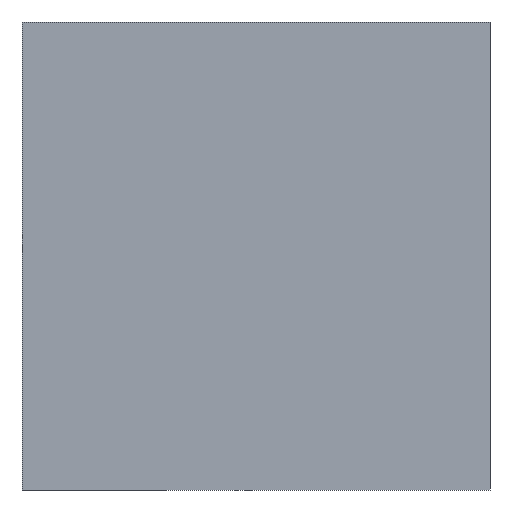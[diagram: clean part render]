
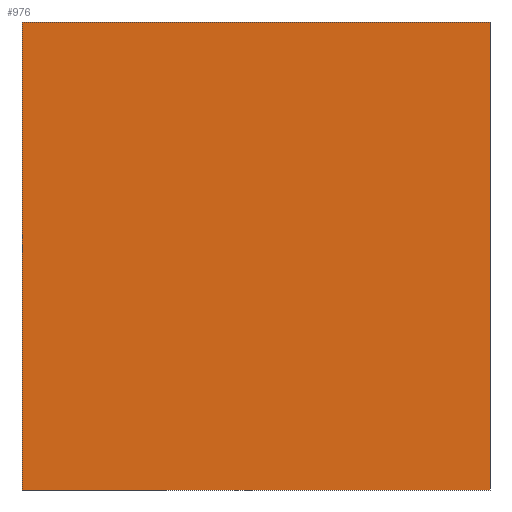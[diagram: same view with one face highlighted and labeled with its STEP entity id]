
A CAD part, left-side view. The second image highlights one B-rep face of the part: STEP entity #976.
In plain terms, the highlighted planar face has unit normal (-1, 0, 0).
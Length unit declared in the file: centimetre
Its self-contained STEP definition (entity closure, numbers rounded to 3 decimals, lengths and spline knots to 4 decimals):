
#36 = PLANE ( 'NONE',  #251 ) ;
#56 = EDGE_LOOP ( 'NONE', ( #864, #762, #145, #873 ) ) ;
#69 = CARTESIAN_POINT ( 'NONE',  ( 0., 1000., 0. ) ) ;
#78 = DIRECTION ( 'NONE',  ( 0., -1., 0. ) ) ;
#145 = ORIENTED_EDGE ( 'NONE', *, *, #247, .F. ) ;
#151 = LINE ( 'NONE', #379, #902 ) ;
#177 = VECTOR ( 'NONE', #458, 100. ) ;
#188 = CARTESIAN_POINT ( 'NONE',  ( 0., 1000., 1000. ) ) ;
#200 = EDGE_CURVE ( 'NONE', #995, #856, #841, .T. ) ;
#247 = EDGE_CURVE ( 'NONE', #995, #829, #739, .T. ) ;
#251 = AXIS2_PLACEMENT_3D ( 'NONE', #597, #993, #508 ) ;
#318 = EDGE_CURVE ( 'NONE', #856, #850, #786, .T. ) ;
#329 = FACE_OUTER_BOUND ( 'NONE', #56, .T. ) ;
#377 = CARTESIAN_POINT ( 'NONE',  ( 0., 0., 1000. ) ) ;
#379 = CARTESIAN_POINT ( 'NONE',  ( 0., 0., 1000. ) ) ;
#406 = CARTESIAN_POINT ( 'NONE',  ( 0., 0., 0. ) ) ;
#458 = DIRECTION ( 'NONE',  ( 0., -1., 0. ) ) ;
#502 = VECTOR ( 'NONE', #78, 100. ) ;
#508 = DIRECTION ( 'NONE',  ( 0., 0., -1. ) ) ;
#557 = CARTESIAN_POINT ( 'NONE',  ( 0., 1000., 1000. ) ) ;
#597 = CARTESIAN_POINT ( 'NONE',  ( 0., 1000., 1000. ) ) ;
#687 = DIRECTION ( 'NONE',  ( 0., 0., -1. ) ) ;
#728 = EDGE_CURVE ( 'NONE', #829, #850, #151, .T. ) ;
#739 = LINE ( 'NONE', #557, #177 ) ;
#762 = ORIENTED_EDGE ( 'NONE', *, *, #728, .F. ) ;
#786 = LINE ( 'NONE', #1013, #502 ) ;
#789 = VECTOR ( 'NONE', #908, 100. ) ;
#812 = CARTESIAN_POINT ( 'NONE',  ( 0., 1000., 1000. ) ) ;
#829 = VERTEX_POINT ( 'NONE', #377 ) ;
#841 = LINE ( 'NONE', #812, #789 ) ;
#850 = VERTEX_POINT ( 'NONE', #406 ) ;
#856 = VERTEX_POINT ( 'NONE', #69 ) ;
#864 = ORIENTED_EDGE ( 'NONE', *, *, #318, .T. ) ;
#873 = ORIENTED_EDGE ( 'NONE', *, *, #200, .T. ) ;
#902 = VECTOR ( 'NONE', #687, 100. ) ;
#908 = DIRECTION ( 'NONE',  ( 0., 0., -1. ) ) ;
#976 = ADVANCED_FACE ( 'NONE', ( #329 ), #36, .F. ) ;
#993 = DIRECTION ( 'NONE',  ( 1., 0., 0. ) ) ;
#995 = VERTEX_POINT ( 'NONE', #188 ) ;
#1013 = CARTESIAN_POINT ( 'NONE',  ( 0., 1000., 0. ) ) ;
